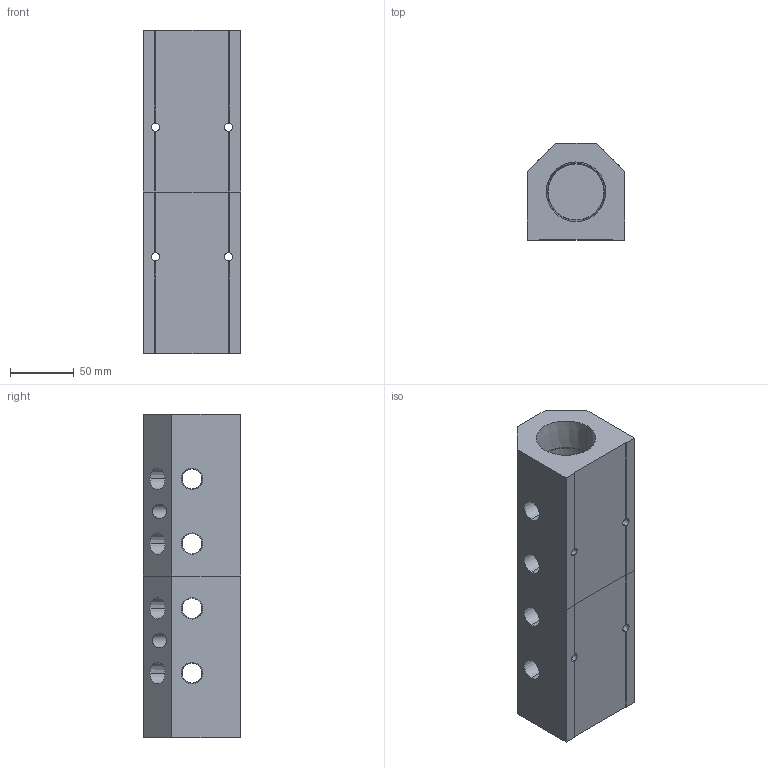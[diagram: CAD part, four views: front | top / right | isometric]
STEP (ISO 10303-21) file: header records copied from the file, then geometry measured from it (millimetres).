
FILE_DESCRIPTION (( 'STEP AP214' ), '1' );
FILE_NAME ('ALM4ABCDE-N6N24-254RB.step', '2022-02-07T09:15:55', ( '' ), ( '' ), 'SwSTEP 2.0', 'SolidWorks 2020', '' );
FILE_SCHEMA (( 'AUTOMOTIVE_DESIGN' ));
Length unit declared in the file: millimetre
Products named in the file (1): ALM4ABCDE-N6N24-254RB
Bounding box: 76.2 x 76.2 x 254 mm (x, y, z)
Volume: 873799.8 mm3; surface area: 141233.8 mm2
Topology: 2 solids, 2 shells, 398 faces, 1062 edges, 700 vertices
Faces by surface type: plane 273, bspline 61, cone 44, cylinder 20
Entity records: 21945 total; most frequent: CARTESIAN_POINT 8586, ORIENTED_EDGE 2124, DIRECTION 1640, EDGE_CURVE 1062, VECTOR 804, LINE 804, VERTEX_POINT 700, EDGE_LOOP 478
